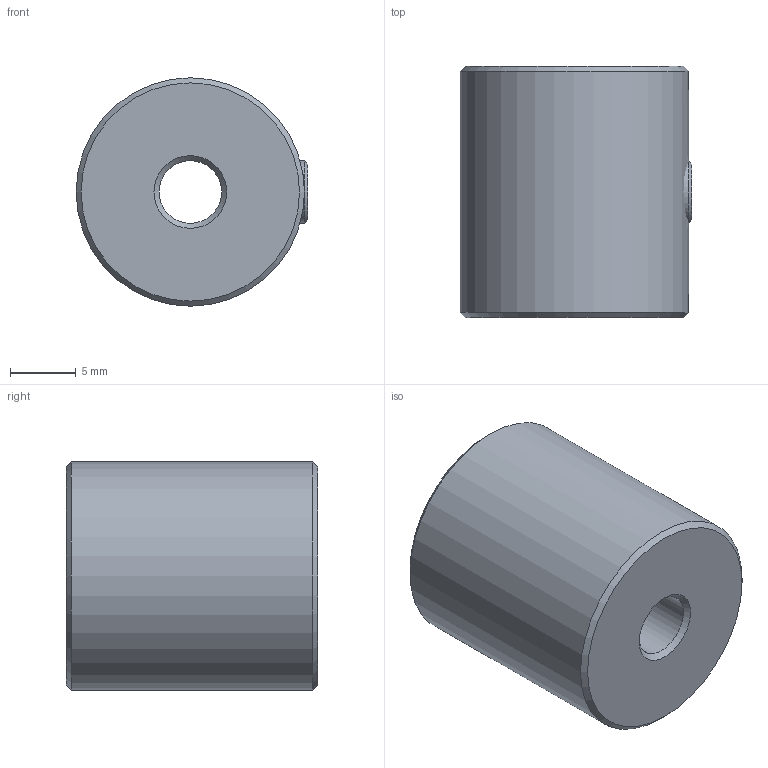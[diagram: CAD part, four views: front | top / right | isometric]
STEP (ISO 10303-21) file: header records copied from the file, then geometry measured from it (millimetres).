
FILE_DESCRIPTION(/* description */ (''),/* implementation_level */ '2;1');
FILE_NAME(/* name */ 'C:/Users/drich/Desktop/D-500 v1.step',/* time_stamp */ '2020-01-08T19:15:12-06:00',/* author */ (''),/* organization */ (''),/* preprocessor_version */ 'ST-DEVELOPER v18',/* originating_system */ 'Autodesk Translation Framework v8.12.0.6',/* authorisation */ '');
FILE_SCHEMA (('AUTOMOTIVE_DESIGN { 1 0 10303 214 3 1 1 }'));
Length unit declared in the file: inch
Products named in the file (1): D-500
Bounding box: 17.58 x 19.05 x 17.32 mm (x, y, z)
Volume: 4228.1 mm3; surface area: 1854.5 mm2
Topology: 2 solids, 2 shells, 26 faces, 59 edges, 39 vertices
Faces by surface type: plane 18, cone 5, cylinder 3
Full cylindrical faces by diameter (mm): 4.75 x2, 17.323 x1
Entity records: 779 total; most frequent: DIRECTION 132, CARTESIAN_POINT 125, ORIENTED_EDGE 118, EDGE_CURVE 59, AXIS2_PLACEMENT_3D 46, LINE 40, VECTOR 40, VERTEX_POINT 39
